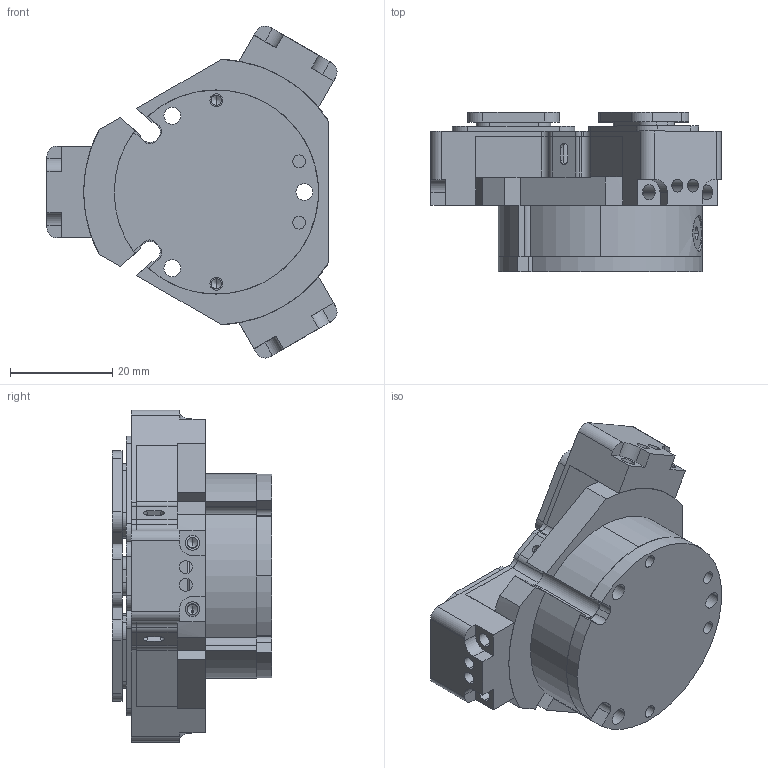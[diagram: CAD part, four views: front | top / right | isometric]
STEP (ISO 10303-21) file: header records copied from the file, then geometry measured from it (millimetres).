
FILE_DESCRIPTION (( 'STEP AP214' ), '1' );
FILE_NAME ('THN-40C-1-SD.STEP', '2021-03-09T10:36:12', ( '' ), ( '' ), 'SwSTEP 2.0', 'SolidWorks 2016', '' );
FILE_SCHEMA (( 'AUTOMOTIVE_DESIGN' ));
Length unit declared in the file: millimetre
Products named in the file (7): THN-40A-1-SD-05; THN-40A-1-SD-02; THN-40C-1-SD-03; THN-40C-1-SD; THN-40A-1-SD-06; THN-40C-1-SD-01; THN-40A-1-SD-04
Assembly tree (12 placements, depth 2):
  THN-40C-1-SD
    THN-40C-1-SD-01
    THN-40C-1-SD-03
    THN-40A-1-SD-02  x3
    THN-40A-1-SD-04
    THN-40A-1-SD-05  x3
    THN-40A-1-SD-06  x3
Bounding box: 56.86 x 31.2 x 65.04 mm (x, y, z)
Volume: 40378 mm3; surface area: 28022.9 mm2
Topology: 12 solids, 12 shells, 827 faces, 2241 edges, 1432 vertices
Faces by surface type: plane 362, cylinder 337, cone 124, bspline 4
Entity records: 25387 total; most frequent: CARTESIAN_POINT 8039, DIRECTION 3489, ORIENTED_EDGE 3346, EDGE_CURVE 1673, AXIS2_PLACEMENT_3D 1254, VERTEX_POINT 1096, VECTOR 981, LINE 981
